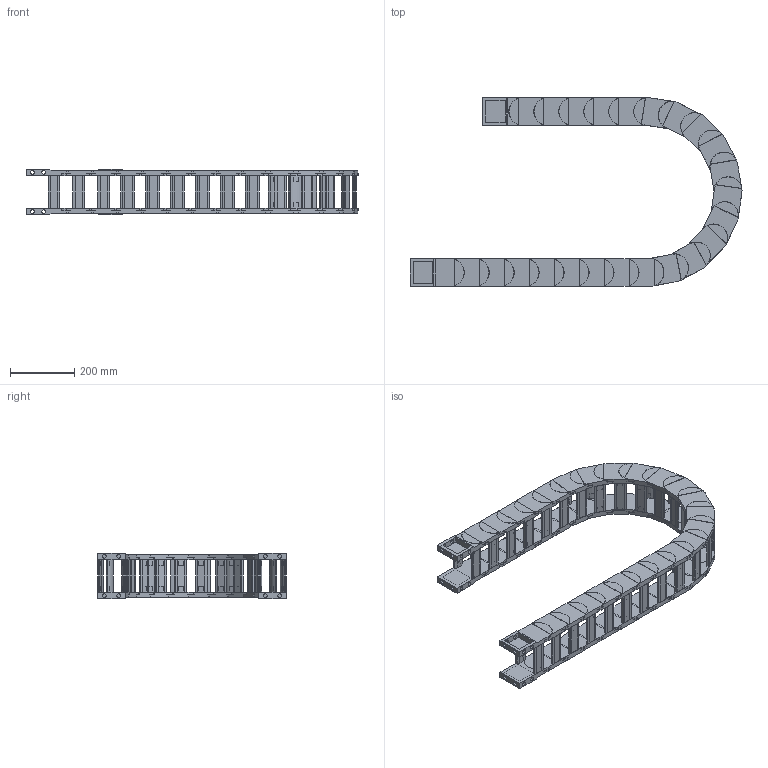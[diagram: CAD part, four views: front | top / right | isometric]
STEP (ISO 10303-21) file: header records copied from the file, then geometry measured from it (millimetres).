
FILE_DESCRIPTION((''),'2;1');
FILE_NAME('HD65-R250-ZPT_ASM','2022-06-18T10:59:53',('admin'),(''),'CREO PARAMETRIC BY PTC INC, 2021164','CREO PARAMETRIC BY PTC INC, 2021164','');
FILE_SCHEMA(('CONFIG_CONTROL_DESIGN','GEOMETRIC_VALIDATION_PROPERTIES_MIM'));
Length unit declared in the file: millimetre
Products named in the file (6): HD65; 65-50HDQSYP; HD65_ASM; H65-T1; H65-T2; HD65-R250-ZPT_ASM
Assembly tree (29 placements, depth 3):
  HD65-R250-ZPT_ASM
    HD65_ASM  x23
      HD65
      65-50HDQSYP
    H65-T1
    H65-T2
    65-50HDQSYP  x2
Bounding box: 1030.73 x 585.89 x 140.3 mm (x, y, z)
Volume: 7070914.5 mm3; surface area: 2119680.2 mm2
Topology: 100 solids, 100 shells, 1844 faces, 4858 edges, 3318 vertices
Faces by surface type: plane 1416, cylinder 428
Entity records: 8932 total; most frequent: CARTESIAN_POINT 1334, DIRECTION 1302, ORIENTED_EDGE 1212, EDGE_CURVE 606, AXIS2_PLACEMENT_3D 439, VECTOR 424, LINE 424, VERTEX_POINT 410
